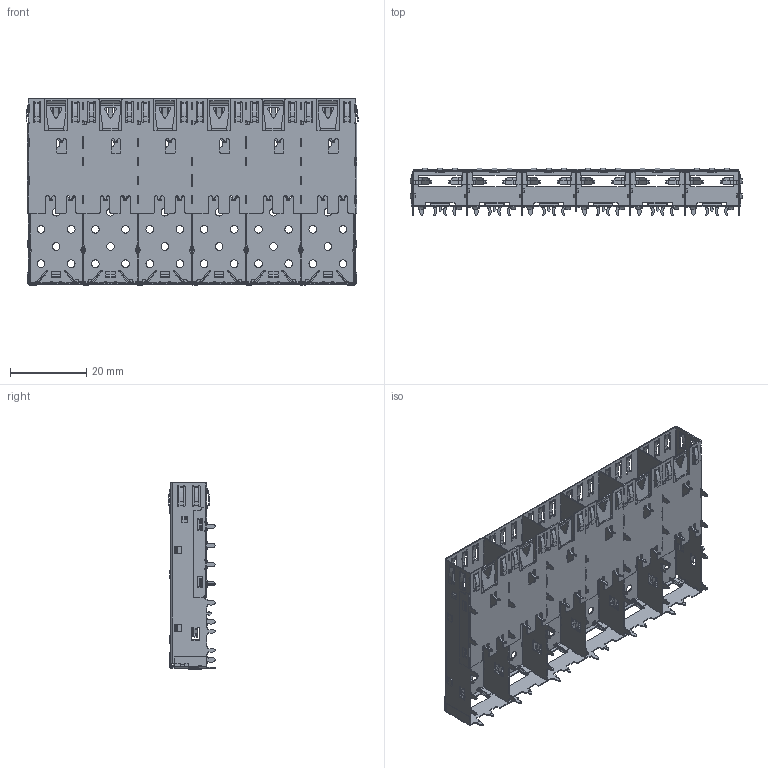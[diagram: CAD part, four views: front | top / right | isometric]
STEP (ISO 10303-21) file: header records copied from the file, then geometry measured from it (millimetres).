
FILE_DESCRIPTION (( 'STEP AP203' ), '1' );
FILE_NAME ('8951-A6PS0A.STEP', '2025-02-13T02:51:09', ( '' ), ( '' ), 'SwSTEP 2.0', 'SolidWorks 2020', '' );
FILE_SCHEMA (( 'CONFIG_CONTROL_DESIGN' ));
Products named in the file (2): 8951-A6PS0A
Assembly tree (1 placements, depth 2):
  8951-A6PS0A
    8951-A6PS0A
Bounding box: 87.05 x 12.45 x 49 mm (x, y, z)
Volume: 2611.2 mm3; surface area: 21922.9 mm2
Topology: 1 solids, 1 shells, 4760 faces, 13533 edges, 8660 vertices
Faces by surface type: plane 2381, cylinder 2331, bspline 48
Entity records: 158950 total; most frequent: CARTESIAN_POINT 31429, ORIENTED_EDGE 27066, DIRECTION 26916, EDGE_CURVE 13533, AXIS2_PLACEMENT_3D 9321, VERTEX_POINT 8660, VECTOR 8274, LINE 8274
